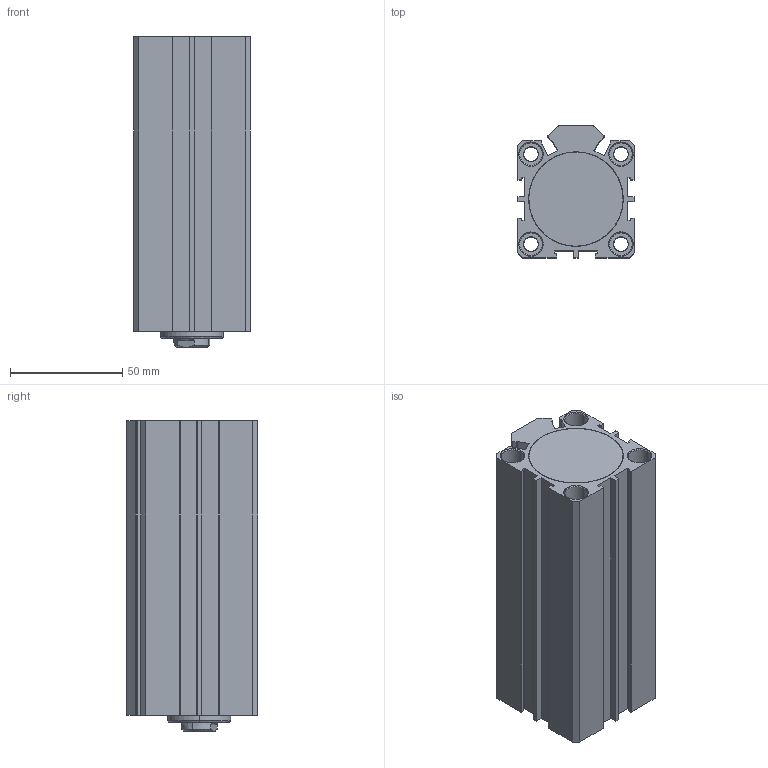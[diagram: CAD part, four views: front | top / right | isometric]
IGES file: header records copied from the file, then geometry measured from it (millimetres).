
Start section: SolidWorks IGES file using analytic representation for surfaces
Global section: file name: D:\ARICA 3D 禽Z軲LER\3D IGES\SDA-S\SDA-S 40\SDA-S-40X95CYLINDER.IGS,1; native system: 5HSolidWorks 2013; preprocessor: SolidWorks 2013; author: user; date: 150803.134901; units: millimetre
Bounding box: 52 x 58.5 x 138 mm (x, y, z)
Surface area: 90655.1 mm2 (no closed solid volume)
Topology: 0 solids, 0 shells, 241 faces, 4839 edges, 4839 vertices
Faces by surface type: revolution 136, bspline 105
